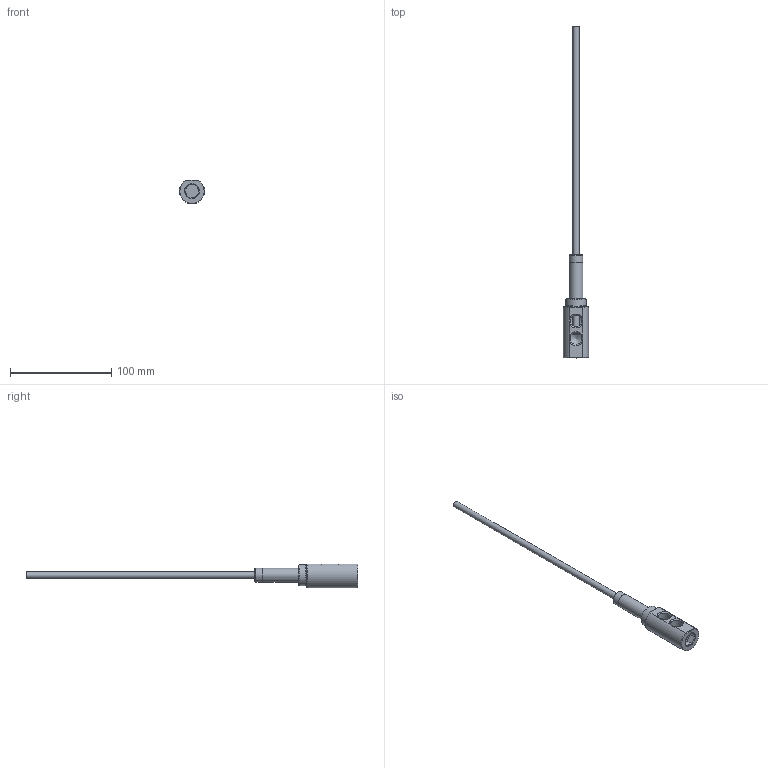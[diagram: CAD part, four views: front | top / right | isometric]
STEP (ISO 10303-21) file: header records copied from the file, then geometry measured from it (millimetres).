
FILE_DESCRIPTION(/* description */ (''),/* implementation_level */ '2;1');
FILE_NAME(/* name */ 'C:/Users/drich/Desktop/E146N-4 v1.step',/* time_stamp */ '2020-01-15T19:30:58-06:00',/* author */ (''),/* organization */ (''),/* preprocessor_version */ 'ST-DEVELOPER v18',/* originating_system */ 'Autodesk Translation Framework v8.12.0.6',/* authorisation */ '');
FILE_SCHEMA (('AUTOMOTIVE_DESIGN { 1 0 10303 214 3 1 1 }'));
Length unit declared in the file: inch
Products named in the file (4): E146N-4; E181H; SSPN14-2; HF250T-12
Assembly tree (3 placements, depth 2):
  E146N-4
    E181H
    SSPN14-2
    HF250T-12
Bounding box: 25.02 x 328.47 x 23.29 mm (x, y, z)
Volume: 24989.1 mm3; surface area: 23144.8 mm2
Topology: 3 solids, 3 shells, 65 faces, 171 edges, 116 vertices
Faces by surface type: plane 24, cone 19, cylinder 18, torus 4
Full cylindrical faces by diameter (mm): 5.842 x1, 6.35 x1, 6.909 x1, 7.818 x1, 7.976 x1, 9.246 x1, 9.525 x1, 11.668 x3, 13.665 x2, 13.716 x1, 14.732 x1, 20.625 x1
Entity records: 2360 total; most frequent: CARTESIAN_POINT 597, DIRECTION 363, ORIENTED_EDGE 338, EDGE_CURVE 169, AXIS2_PLACEMENT_3D 151, VERTEX_POINT 116, EDGE_LOOP 79, CIRCLE 77
